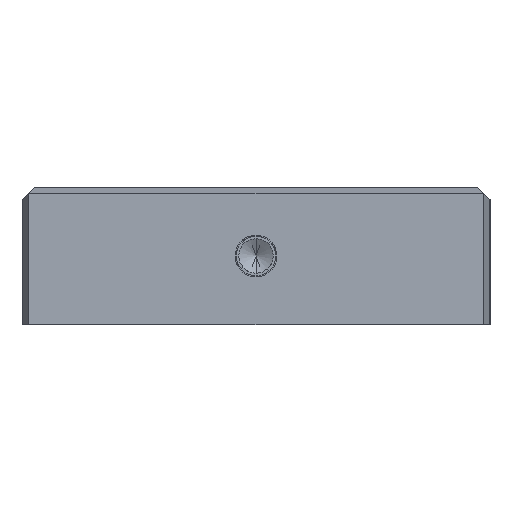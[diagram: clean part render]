
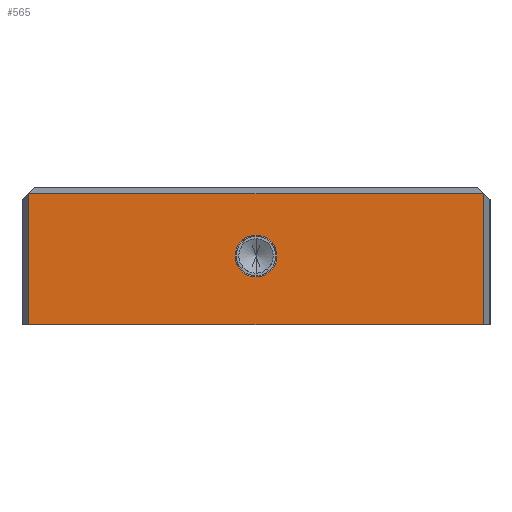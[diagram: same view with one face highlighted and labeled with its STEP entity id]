
A CAD part, front view. The second image highlights one B-rep face of the part: STEP entity #565.
In plain terms, the highlighted planar face has unit normal (0, -1, 0).
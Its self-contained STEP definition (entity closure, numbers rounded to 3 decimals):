
#457=CARTESIAN_POINT('Vertex',(0.,0.,-36.5)) ;
#461=CARTESIAN_POINT('Control Point',(8.5,0.,-28.)) ;
#462=CARTESIAN_POINT('Control Point',(8.5,0.,-30.67)) ;
#463=CARTESIAN_POINT('Control Point',(7.454,0.,-33.343)) ;
#464=CARTESIAN_POINT('Control Point',(5.343,0.,-35.454)) ;
#465=CARTESIAN_POINT('Control Point',(2.67,0.,-36.5)) ;
#466=CARTESIAN_POINT('Control Point',(0.,0.,-36.5)) ;
#467=CARTESIAN_POINT('Vertex',(8.5,0.,-28.)) ;
#470=CARTESIAN_POINT('Axis2P3D Location',(0.,0.,-28.)) ;
#474=CARTESIAN_POINT('Vertex',(0.,0.,-19.5)) ;
#496=CARTESIAN_POINT('Axis2P3D Location',(0.,0.,-28.)) ;
#500=CARTESIAN_POINT('Vertex',(-8.5,0.,-28.)) ;
#504=CARTESIAN_POINT('Control Point',(0.,0.,-36.5)) ;
#505=CARTESIAN_POINT('Control Point',(-2.67,0.,-36.5)) ;
#506=CARTESIAN_POINT('Control Point',(-5.343,0.,-35.454)) ;
#507=CARTESIAN_POINT('Control Point',(-7.454,0.,-33.343)) ;
#508=CARTESIAN_POINT('Control Point',(-8.5,0.,-30.67)) ;
#509=CARTESIAN_POINT('Control Point',(-8.5,0.,-28.)) ;
#520=CARTESIAN_POINT('Axis2P3D Location',(-92.321,0.,-56.)) ;
#525=CARTESIAN_POINT('Line Origine',(92.321,0.,-29.34)) ;
#529=CARTESIAN_POINT('Vertex',(92.321,0.,-56.)) ;
#531=CARTESIAN_POINT('Vertex',(92.321,0.,-2.679)) ;
#534=CARTESIAN_POINT('Line Origine',(0.,0.,-2.679)) ;
#538=CARTESIAN_POINT('Vertex',(-92.321,0.,-2.679)) ;
#541=CARTESIAN_POINT('Line Origine',(-92.321,0.,-29.34)) ;
#545=CARTESIAN_POINT('Vertex',(-92.321,0.,-56.)) ;
#548=CARTESIAN_POINT('Line Origine',(0.,0.,-56.)) ;
#471=DIRECTION('Axis2P3D Direction',(0.,-1.,0.)) ;
#497=DIRECTION('Axis2P3D Direction',(0.,-1.,0.)) ;
#521=DIRECTION('Axis2P3D Direction',(0.,-1.,0.)) ;
#522=DIRECTION('Axis2P3D XDirection',(0.,0.,-1.)) ;
#526=DIRECTION('Vector Direction',(0.,0.,1.)) ;
#535=DIRECTION('Vector Direction',(-1.,0.,0.)) ;
#542=DIRECTION('Vector Direction',(0.,0.,1.)) ;
#549=DIRECTION('Vector Direction',(1.,0.,0.)) ;
#472=AXIS2_PLACEMENT_3D('Circle Axis2P3D',#470,#471,$) ;
#498=AXIS2_PLACEMENT_3D('Circle Axis2P3D',#496,#497,$) ;
#523=AXIS2_PLACEMENT_3D('Plane Axis2P3D',#520,#521,#522) ;
#554=ORIENTED_EDGE('',*,*,#533,.T.) ;
#555=ORIENTED_EDGE('',*,*,#540,.T.) ;
#556=ORIENTED_EDGE('',*,*,#547,.F.) ;
#557=ORIENTED_EDGE('',*,*,#552,.T.) ;
#560=ORIENTED_EDGE('',*,*,#469,.T.) ;
#561=ORIENTED_EDGE('',*,*,#510,.T.) ;
#562=ORIENTED_EDGE('',*,*,#502,.T.) ;
#563=ORIENTED_EDGE('',*,*,#476,.T.) ;
#564=FACE_BOUND('',#559,.T.) ;
#527=VECTOR('Line Direction',#526,1.) ;
#536=VECTOR('Line Direction',#535,1.) ;
#543=VECTOR('Line Direction',#542,1.) ;
#550=VECTOR('Line Direction',#549,1.) ;
#565=ADVANCED_FACE('A927-190X315X56',(#558,#564),#524,.T.) ;
#460=B_SPLINE_CURVE_WITH_KNOTS('',5,(#461,#462,#463,#464,#465,#466),.UNSPECIFIED.,.F.,.U.,(6,6),(-6.676,6.676),.UNSPECIFIED.) ;
#503=B_SPLINE_CURVE_WITH_KNOTS('',5,(#504,#505,#506,#507,#508,#509),.UNSPECIFIED.,.F.,.U.,(6,6),(-6.676,6.676),.UNSPECIFIED.) ;
#473=CIRCLE('generated circle',#472,8.5) ;
#499=CIRCLE('generated circle',#498,8.5) ;
#469=EDGE_CURVE('',#468,#458,#460,.T.) ;
#476=EDGE_CURVE('',#475,#468,#473,.F.) ;
#502=EDGE_CURVE('',#501,#475,#499,.F.) ;
#510=EDGE_CURVE('',#458,#501,#503,.T.) ;
#533=EDGE_CURVE('',#530,#532,#528,.T.) ;
#540=EDGE_CURVE('',#532,#539,#537,.T.) ;
#547=EDGE_CURVE('',#546,#539,#544,.T.) ;
#552=EDGE_CURVE('',#546,#530,#551,.T.) ;
#553=EDGE_LOOP('',(#554,#555,#556,#557)) ;
#559=EDGE_LOOP('',(#560,#561,#562,#563)) ;
#558=FACE_OUTER_BOUND('',#553,.T.) ;
#528=LINE('Line',#525,#527) ;
#537=LINE('Line',#534,#536) ;
#544=LINE('Line',#541,#543) ;
#551=LINE('Line',#548,#550) ;
#524=PLANE('Plane',#523) ;
#458=VERTEX_POINT('',#457) ;
#468=VERTEX_POINT('',#467) ;
#475=VERTEX_POINT('',#474) ;
#501=VERTEX_POINT('',#500) ;
#530=VERTEX_POINT('',#529) ;
#532=VERTEX_POINT('',#531) ;
#539=VERTEX_POINT('',#538) ;
#546=VERTEX_POINT('',#545) ;
